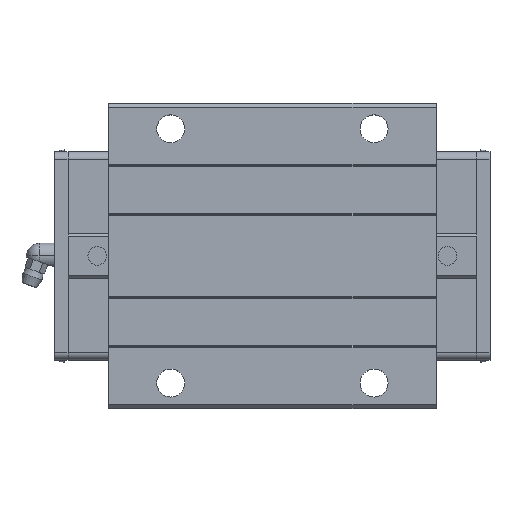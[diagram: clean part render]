
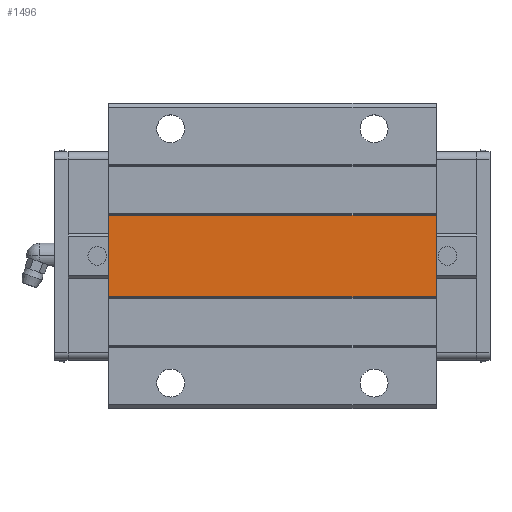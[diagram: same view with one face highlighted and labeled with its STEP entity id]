
A CAD part, top view. The second image highlights one B-rep face of the part: STEP entity #1496.
In plain terms, the highlighted planar face has unit normal (0, 0, 1).
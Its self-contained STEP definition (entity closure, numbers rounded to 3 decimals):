
#1435=CARTESIAN_POINT('POINT102',(150.,-16.05,50.8));
#1436=VERTEX_POINT('VERTEX102',#1435);
#1443=CARTESIAN_POINT('POINT103',(21.2,-16.05,50.8));
#1444=VERTEX_POINT('VERTEX103',#1443);
#1445=CARTESIAN_POINT('POS146',(21.2,-16.05,50.8));
#1446=DIRECTION('DIR208',(1.,0.,0.));
#1447=VECTOR('VEC84',#1446,1.);
#1448=LINE('STRAIGHT84',#1445,#1447);
#1449=EDGE_CURVE('EDGE139',#1444,#1436,#1448,.T.);
#1466=CARTESIAN_POINT('POINT104',(150.,16.05,
   50.8));
#1467=VERTEX_POINT('VERTEX104',#1466);
#1468=CARTESIAN_POINT('POS149',(150.,16.05,
   50.8));
#1469=DIRECTION('DIR212',(0.,1.,0.));
#1470=VECTOR('VEC86',#1469,1.);
#1471=LINE('STRAIGHT86',#1468,#1470);
#1472=EDGE_CURVE('EDGE141',#1436,#1467,#1471,.T.);
#1473=ORIENTED_EDGE('COEDGE215',*,*,#1472,.T.);
#1474=CARTESIAN_POINT('POINT105',(21.2,16.05,
   50.8));
#1475=VERTEX_POINT('VERTEX105',#1474);
#1476=CARTESIAN_POINT('POS150',(21.2,16.05,
   50.8));
#1477=DIRECTION('DIR213',(1.,0.,0.));
#1478=VECTOR('VEC87',#1477,1.);
#1479=LINE('STRAIGHT87',#1476,#1478);
#1480=EDGE_CURVE('EDGE142',#1475,#1467,#1479,.T.);
#1481=ORIENTED_EDGE('COEDGE216',*,*,#1480,.F.);
#1482=CARTESIAN_POINT('POS151',(21.2,16.05,
   50.8));
#1483=DIRECTION('DIR214',(0.,-1.,0.));
#1484=VECTOR('VEC88',#1483,1.);
#1485=LINE('STRAIGHT88',#1482,#1484);
#1486=EDGE_CURVE('EDGE143',#1475,#1444,#1485,.T.);
#1487=ORIENTED_EDGE('COEDGE217',*,*,#1486,.T.);
#1488=ORIENTED_EDGE('COEDGE218',*,*,#1449,.T.);
#1489=EDGE_LOOP('NONE',(#1473,#1481,#1487,#1488));
#1490=FACE_BOUND('LOOP1',#1489,.T.);
#1491=CARTESIAN_POINT('POS152',(21.2,-16.05,50.8));
#1492=DIRECTION('DIR215',(0.,0.,1.));
#1493=DIRECTION('DIR216',(1.,0.,0.));
#1494=AXIS2_PLACEMENT_3D('AXIS64',#1491,#1492,#1493);
#1495=PLANE('PLANE18',#1494);
#1496=ADVANCED_FACE('FACE42',(#1490),#1495,.T.);
